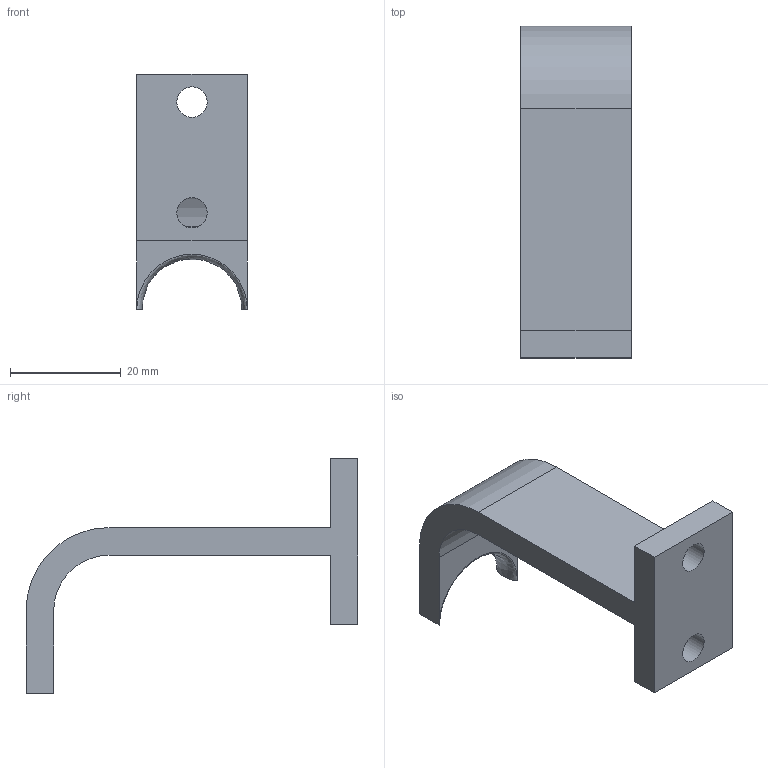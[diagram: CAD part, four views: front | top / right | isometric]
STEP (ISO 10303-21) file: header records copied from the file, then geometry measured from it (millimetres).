
FILE_DESCRIPTION(/* description */ (''),/* implementation_level */ '2;1');
FILE_NAME(/* name */ 'hand_end_1 v5.step',/* time_stamp */ '2026-04-10T14:29:33+02:00',/* author */ (''),/* organization */ (''),/* preprocessor_version */ 'ST-DEVELOPER v20.1',/* originating_system */ 'Autodesk Translation Framework v14.24.0.0',/* authorisation */ '');
FILE_SCHEMA (('AUTOMOTIVE_DESIGN { 1 0 10303 214 3 1 1 }'));
Length unit declared in the file: millimetre
Products named in the file (1): (Niezapisany)
Bounding box: 20 x 60 x 42.5 mm (x, y, z)
Volume: 9558.5 mm3; surface area: 5271.2 mm2
Topology: 1 solids, 1 shells, 18 faces, 44 edges, 28 vertices
Faces by surface type: plane 13, cylinder 4, bspline 1
Full cylindrical faces by diameter (mm): 5.5 x2
Entity records: 589 total; most frequent: CARTESIAN_POINT 115, DIRECTION 92, ORIENTED_EDGE 88, EDGE_CURVE 44, LINE 32, VECTOR 32, AXIS2_PLACEMENT_3D 30, VERTEX_POINT 28
